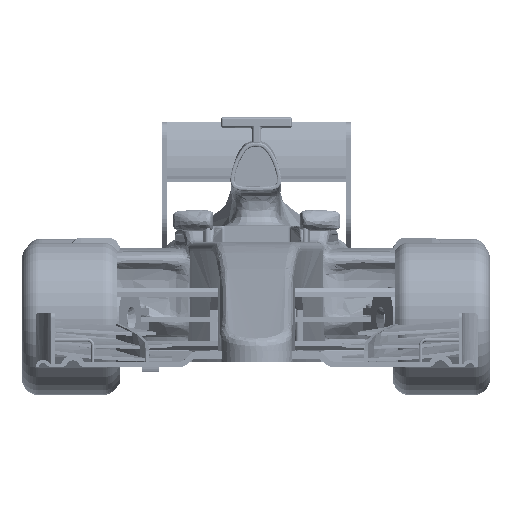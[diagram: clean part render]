
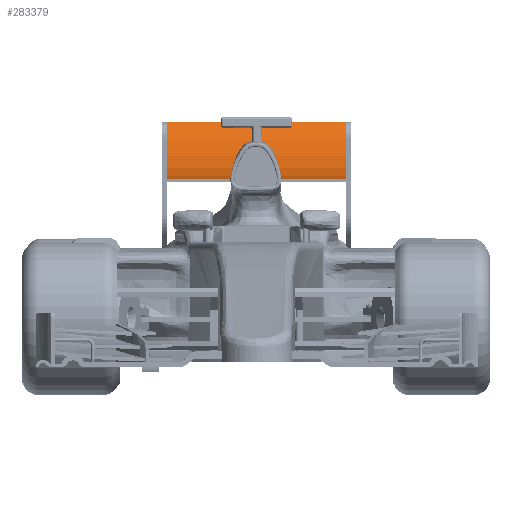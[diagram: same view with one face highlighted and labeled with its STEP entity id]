
A CAD part, front view. The second image highlights one B-rep face of the part: STEP entity #283379.
In plain terms, the highlighted cylindrical face has radius 57.113 mm (diameter 114.227 mm), a partial arc.
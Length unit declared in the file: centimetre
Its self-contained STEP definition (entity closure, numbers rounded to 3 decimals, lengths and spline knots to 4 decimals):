
#2357=CYLINDRICAL_SURFACE('',#293928,5.7113);
#4355=CIRCLE('',#293912,5.7113);
#4356=CIRCLE('',#293920,5.7113);
#46037=FACE_OUTER_BOUND('',#63345,.T.);
#63345=EDGE_LOOP('',(#250706,#250707,#250708,#250709));
#83908=LINE('',#565259,#105850);
#83952=LINE('',#565369,#105894);
#105850=VECTOR('',#328244,1.);
#105894=VECTOR('',#328332,1.);
#132770=VERTEX_POINT('',#565256);
#132771=VERTEX_POINT('',#565258);
#132814=VERTEX_POINT('',#565366);
#132815=VERTEX_POINT('',#565368);
#172092=EDGE_CURVE('',#132770,#132771,#83908,.F.);
#172148=EDGE_CURVE('',#132814,#132815,#83952,.F.);
#173506=EDGE_CURVE('',#132770,#132815,#4355,.T.);
#173509=EDGE_CURVE('',#132771,#132814,#4356,.T.);
#250706=ORIENTED_EDGE('',*,*,#172092,.F.);
#250707=ORIENTED_EDGE('',*,*,#173506,.T.);
#250708=ORIENTED_EDGE('',*,*,#172148,.F.);
#250709=ORIENTED_EDGE('',*,*,#173509,.F.);
#283379=ADVANCED_FACE('',(#46037),#2357,.F.);
#293912=AXIS2_PLACEMENT_3D('',#573509,#329421,#329422);
#293920=AXIS2_PLACEMENT_3D('',#573519,#329439,#329440);
#293928=AXIS2_PLACEMENT_3D('',#573530,#329458,#329459);
#328244=DIRECTION('',(0.,0.,1.));
#328332=DIRECTION('',(0.,0.,-1.));
#329421=DIRECTION('center_axis',(0.,0.,1.));
#329422=DIRECTION('ref_axis',(0.061,-0.998,0.));
#329439=DIRECTION('center_axis',(0.,0.,1.));
#329440=DIRECTION('ref_axis',(0.061,-0.998,0.));
#329458=DIRECTION('center_axis',(0.,0.,1.));
#329459=DIRECTION('ref_axis',(0.061,-0.998,0.));
#565256=CARTESIAN_POINT('',(0.1003,5.0364,3.3));
#565258=CARTESIAN_POINT('',(0.1003,5.0364,-3.3));
#565259=CARTESIAN_POINT('',(0.1003,5.0364,-3.3));
#565366=CARTESIAN_POINT('',(4.2835,7.1416,-3.3));
#565368=CARTESIAN_POINT('',(4.2835,7.1416,3.3));
#565369=CARTESIAN_POINT('',(4.2835,7.1416,-3.3));
#573509=CARTESIAN_POINT('Origin',(-0.1499,10.7422,3.3));
#573519=CARTESIAN_POINT('Origin',(-0.1499,10.7422,-3.3));
#573530=CARTESIAN_POINT('Origin',(-0.1499,10.7422,-3.3));
